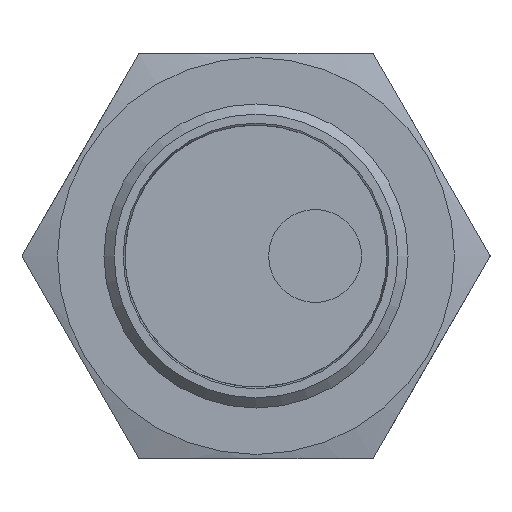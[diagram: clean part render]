
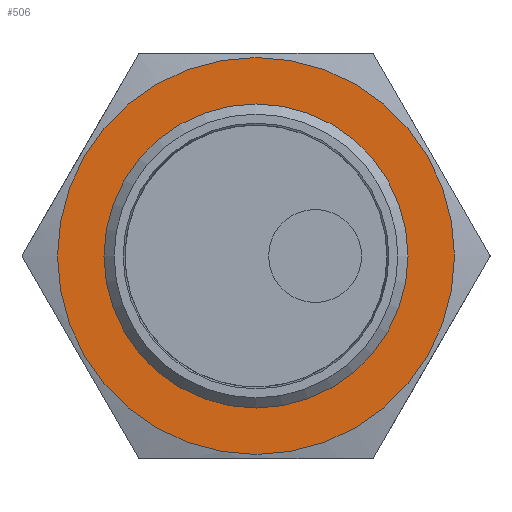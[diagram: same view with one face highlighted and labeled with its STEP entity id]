
A CAD part, left-side view. The second image highlights one B-rep face of the part: STEP entity #506.
In plain terms, the highlighted planar face has unit normal (-1, 0, 0) as drawn and (0, -1, 0) by its records, which use the part's own axes.
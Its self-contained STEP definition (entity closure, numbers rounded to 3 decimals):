
#506 = ADVANCED_FACE( '', ( #1170, #1171 ), #1172, .F. );
#1170 = FACE_BOUND( '', #2027, .T. );
#1171 = FACE_OUTER_BOUND( '', #2028, .T. );
#1172 = PLANE( '', #2029 );
#2027 = EDGE_LOOP( '', ( #3368 ) );
#2028 = EDGE_LOOP( '', ( #3369 ) );
#2029 = AXIS2_PLACEMENT_3D( '', #3370, #3371, #3372 );
#3368 = ORIENTED_EDGE( '', *, *, #5384, .F. );
#3369 = ORIENTED_EDGE( '', *, *, #5385, .T. );
#3370 = CARTESIAN_POINT( '', ( 0., -2., 0. ) );
#3371 = DIRECTION( '', ( 0., 1., 0. ) );
#3372 = DIRECTION( '', ( 0., 0., 1. ) );
#5384 = EDGE_CURVE( '', #6592, #6592, #6593, .T. );
#5385 = EDGE_CURVE( '', #6594, #6594, #6595, .T. );
#6592 = VERTEX_POINT( '', #8289 );
#6593 = CIRCLE( '', #8290, 8.459 );
#6594 = VERTEX_POINT( '', #8291 );
#6595 = CIRCLE( '', #8292, 11.75 );
#8289 = CARTESIAN_POINT( '', ( 8.459, -2., 0. ) );
#8290 = AXIS2_PLACEMENT_3D( '', #9888, #9889, #9890 );
#8291 = CARTESIAN_POINT( '', ( 0., -2., -11.75 ) );
#8292 = AXIS2_PLACEMENT_3D( '', #9891, #9892, #9893 );
#9888 = CARTESIAN_POINT( '', ( 0., -2., 0. ) );
#9889 = DIRECTION( '', ( 0., -1., 0. ) );
#9890 = DIRECTION( '', ( 1., 0., 0. ) );
#9891 = CARTESIAN_POINT( '', ( 0., -2., 0. ) );
#9892 = DIRECTION( '', ( 0., -1., 0. ) );
#9893 = DIRECTION( '', ( 0., 0., -1. ) );
